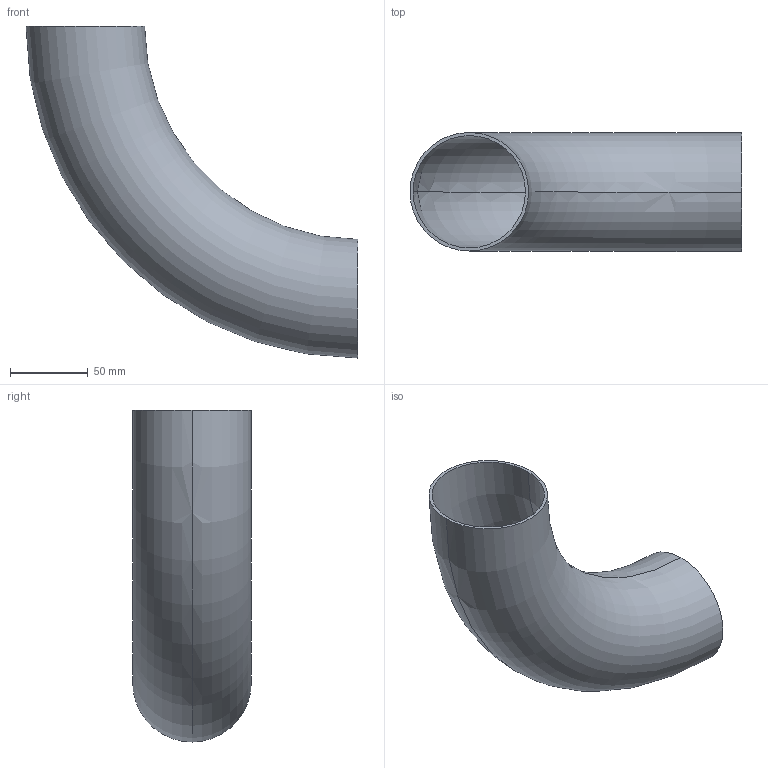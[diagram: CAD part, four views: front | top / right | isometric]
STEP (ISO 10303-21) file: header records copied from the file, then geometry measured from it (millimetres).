
FILE_DESCRIPTION (( 'STEP AP203' ), '1' );
FILE_NAME ('3D_R1655_76.1x2_17362250.STEP', '2024-08-05T09:13:13', ( '' ), ( '' ), 'SwSTEP 2.0', 'SolidWorks 2024', '' );
FILE_SCHEMA (( 'CONFIG_CONTROL_DESIGN' ));
Length unit declared in the file: millimetre
Products named in the file (1): 3D_R1655_76.1x2_17362250
Bounding box: 213.05 x 76.1 x 213.05 mm (x, y, z)
Volume: 127984.1 mm3; surface area: 128915.3 mm2
Topology: 1 solids, 1 shells, 6 faces, 12 edges, 8 vertices
Faces by surface type: torus 4, plane 2
Entity records: 249 total; most frequent: DIRECTION 38, CARTESIAN_POINT 27, ORIENTED_EDGE 24, AXIS2_PLACEMENT_3D 19, CIRCLE 12, EDGE_CURVE 12, PERSON_AND_ORGANIZATION 8, EDGE_LOOP 8
